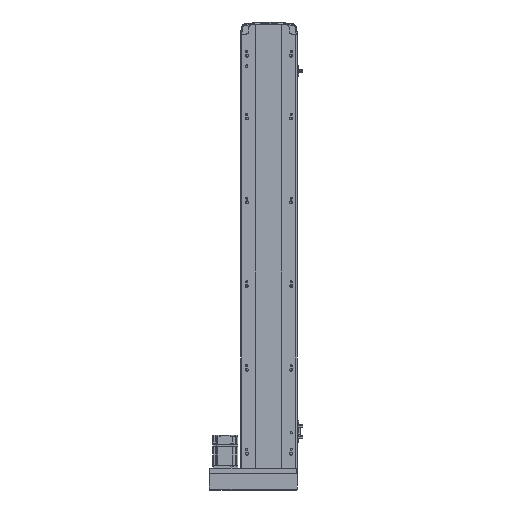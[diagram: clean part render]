
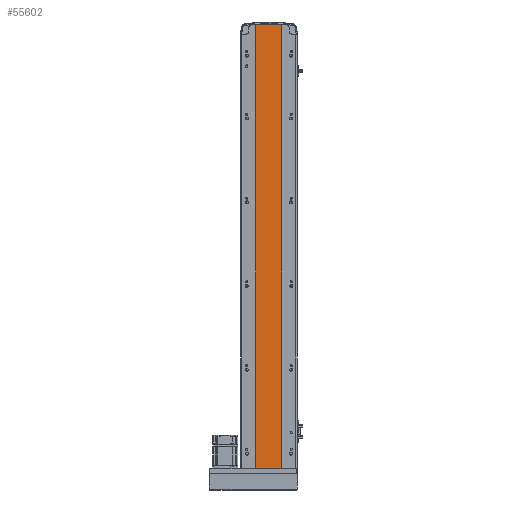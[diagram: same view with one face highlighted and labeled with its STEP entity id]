
A CAD part, front view. The second image highlights one B-rep face of the part: STEP entity #55602.
In plain terms, the highlighted planar face has unit normal (0, -1, 0).
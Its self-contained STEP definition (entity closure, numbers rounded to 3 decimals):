
#33 = ORIENTED_EDGE ( 'NONE', *, *, #40533, .T. ) ;
#1690 = DIRECTION ( 'NONE',  ( 1., 0., 0. ) ) ;
#1714 = CARTESIAN_POINT ( 'NONE',  ( 30., 1., 0. ) ) ;
#4616 = ORIENTED_EDGE ( 'NONE', *, *, #44852, .F. ) ;
#4683 = LINE ( 'NONE', #40681, #13763 ) ;
#5488 = DIRECTION ( 'NONE',  ( -1., 0., 0. ) ) ;
#10292 = CARTESIAN_POINT ( 'NONE',  ( -32., 1., 0. ) ) ;
#10847 = LINE ( 'NONE', #34331, #32516 ) ;
#12161 = CARTESIAN_POINT ( 'NONE',  ( -32., 1., 0. ) ) ;
#13514 = FACE_OUTER_BOUND ( 'NONE', #54940, .T. ) ;
#13763 = VECTOR ( 'NONE', #27062, 1000. ) ;
#16876 = VERTEX_POINT ( 'NONE', #28977 ) ;
#17935 = EDGE_CURVE ( 'NONE', #56094, #43348, #45388, .T. ) ;
#22087 = AXIS2_PLACEMENT_3D ( 'NONE', #37323, #23716, #5488 ) ;
#23716 = DIRECTION ( 'NONE',  ( 0., 1., 0. ) ) ;
#25527 = ORIENTED_EDGE ( 'NONE', *, *, #37266, .F. ) ;
#27062 = DIRECTION ( 'NONE',  ( 1., 0., 0. ) ) ;
#28977 = CARTESIAN_POINT ( 'NONE',  ( 30., 1., 1059. ) ) ;
#31061 = VECTOR ( 'NONE', #45642, 1000. ) ;
#32516 = VECTOR ( 'NONE', #39030, 1000. ) ;
#33202 = ORIENTED_EDGE ( 'NONE', *, *, #17935, .T. ) ;
#34331 = CARTESIAN_POINT ( 'NONE',  ( -32., 1., 1059. ) ) ;
#34923 = VECTOR ( 'NONE', #1690, 1000. ) ;
#37266 = EDGE_CURVE ( 'NONE', #45946, #16876, #4683, .T. ) ;
#37323 = CARTESIAN_POINT ( 'NONE',  ( -32., 1., 1059. ) ) ;
#37488 = CARTESIAN_POINT ( 'NONE',  ( 30., 1., 1059. ) ) ;
#39030 = DIRECTION ( 'NONE',  ( 0., 0., -1. ) ) ;
#40533 = EDGE_CURVE ( 'NONE', #45946, #56094, #10847, .T. ) ;
#40681 = CARTESIAN_POINT ( 'NONE',  ( -32., 1., 1059. ) ) ;
#43348 = VERTEX_POINT ( 'NONE', #1714 ) ;
#44852 = EDGE_CURVE ( 'NONE', #16876, #43348, #54832, .T. ) ;
#45388 = LINE ( 'NONE', #10292, #34923 ) ;
#45642 = DIRECTION ( 'NONE',  ( 0., 0., -1. ) ) ;
#45946 = VERTEX_POINT ( 'NONE', #50645 ) ;
#50405 = PLANE ( 'NONE',  #22087 ) ;
#50645 = CARTESIAN_POINT ( 'NONE',  ( -32., 1., 1059. ) ) ;
#54832 = LINE ( 'NONE', #37488, #31061 ) ;
#54940 = EDGE_LOOP ( 'NONE', ( #33202, #4616, #25527, #33 ) ) ;
#55602 = ADVANCED_FACE ( 'NONE', ( #13514 ), #50405, .F. ) ;
#56094 = VERTEX_POINT ( 'NONE', #12161 ) ;
